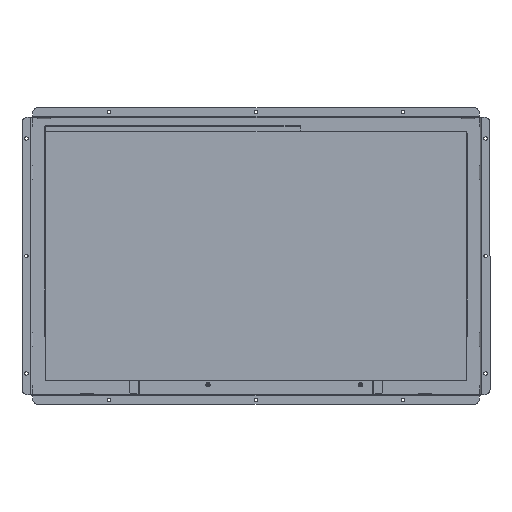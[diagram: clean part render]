
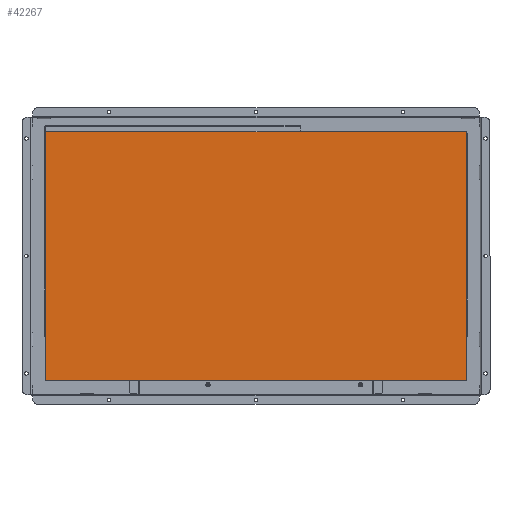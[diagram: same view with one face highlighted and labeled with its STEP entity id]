
A CAD part, top view. The second image highlights one B-rep face of the part: STEP entity #42267.
In plain terms, the highlighted planar face has unit normal (0, 0, 1).
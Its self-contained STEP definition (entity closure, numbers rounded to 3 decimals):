
#2144 = PLANE ( 'NONE',  #12826 ) ;
#3981 = CARTESIAN_POINT ( 'NONE',  ( -214.93, 127., 2.5 ) ) ;
#5449 = ORIENTED_EDGE ( 'NONE', *, *, #17050, .T. ) ;
#12826 = AXIS2_PLACEMENT_3D ( 'NONE', #31436, #25597, #43239 ) ;
#17050 = EDGE_CURVE ( 'NONE', #52455, #62956, #42263, .T. ) ;
#17233 = CARTESIAN_POINT ( 'NONE',  ( 214.93, 127., 2.5 ) ) ;
#20968 = VERTEX_POINT ( 'NONE', #53456 ) ;
#25586 = CARTESIAN_POINT ( 'NONE',  ( -214.93, 127., 2.5 ) ) ;
#25597 = DIRECTION ( 'NONE',  ( 0., 0., 1. ) ) ;
#27660 = DIRECTION ( 'NONE',  ( 0., -1., 0. ) ) ;
#31436 = CARTESIAN_POINT ( 'NONE',  ( -214.93, -127., 2.5 ) ) ;
#31738 = DIRECTION ( 'NONE',  ( -1., 0., 0. ) ) ;
#35736 = DIRECTION ( 'NONE',  ( 1., 0., 0. ) ) ;
#36310 = LINE ( 'NONE', #17233, #51941 ) ;
#38649 = VECTOR ( 'NONE', #27660, 1000. ) ;
#40335 = ORIENTED_EDGE ( 'NONE', *, *, #52177, .T. ) ;
#42263 = LINE ( 'NONE', #47376, #44103 ) ;
#42267 = ADVANCED_FACE ( 'NONE', ( #57479 ), #2144, .T. ) ;
#43239 = DIRECTION ( 'NONE',  ( 1., 0., 0. ) ) ;
#44103 = VECTOR ( 'NONE', #35736, 1000. ) ;
#45399 = VECTOR ( 'NONE', #31738, 1000. ) ;
#47242 = VERTEX_POINT ( 'NONE', #25586 ) ;
#47376 = CARTESIAN_POINT ( 'NONE',  ( -214.93, -127., 2.5 ) ) ;
#50563 = CARTESIAN_POINT ( 'NONE',  ( 214.93, -127., 2.5 ) ) ;
#51941 = VECTOR ( 'NONE', #64193, 1000. ) ;
#52177 = EDGE_CURVE ( 'NONE', #62956, #20968, #36310, .T. ) ;
#52455 = VERTEX_POINT ( 'NONE', #73385 ) ;
#52984 = EDGE_CURVE ( 'NONE', #20968, #47242, #62848, .T. ) ;
#53456 = CARTESIAN_POINT ( 'NONE',  ( 214.93, 127., 2.5 ) ) ;
#56130 = LINE ( 'NONE', #3981, #38649 ) ;
#57479 = FACE_OUTER_BOUND ( 'NONE', #66630, .T. ) ;
#60964 = CARTESIAN_POINT ( 'NONE',  ( -214.93, 127., 2.5 ) ) ;
#62848 = LINE ( 'NONE', #60964, #45399 ) ;
#62956 = VERTEX_POINT ( 'NONE', #50563 ) ;
#64193 = DIRECTION ( 'NONE',  ( 0., 1., 0. ) ) ;
#66630 = EDGE_LOOP ( 'NONE', ( #69117, #5449, #40335, #69806 ) ) ;
#68130 = EDGE_CURVE ( 'NONE', #47242, #52455, #56130, .T. ) ;
#69117 = ORIENTED_EDGE ( 'NONE', *, *, #68130, .T. ) ;
#69806 = ORIENTED_EDGE ( 'NONE', *, *, #52984, .T. ) ;
#73385 = CARTESIAN_POINT ( 'NONE',  ( -214.93, -127., 2.5 ) ) ;
